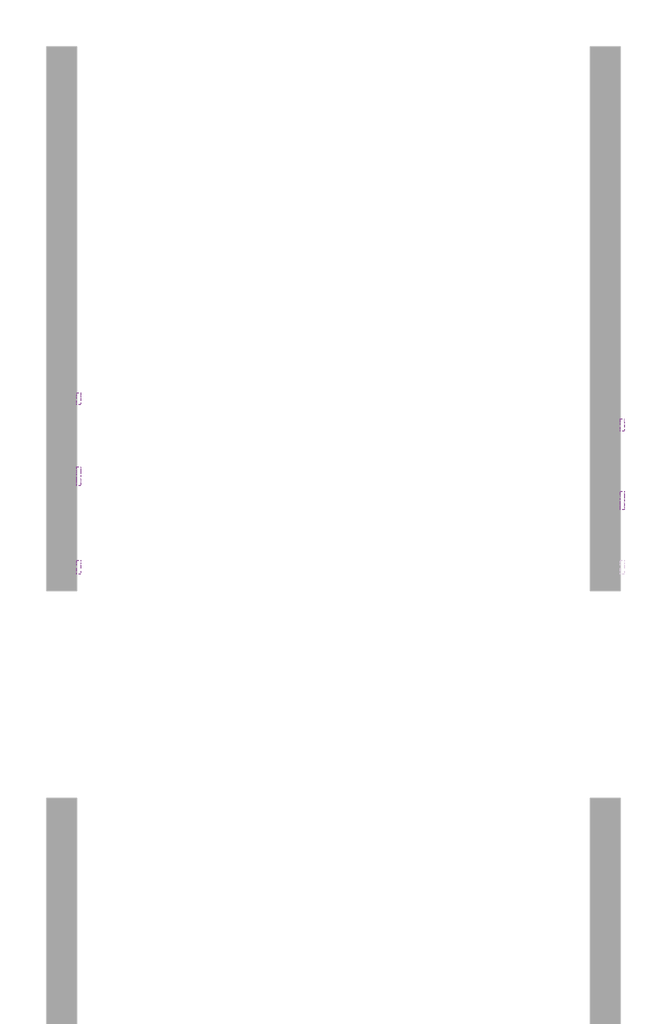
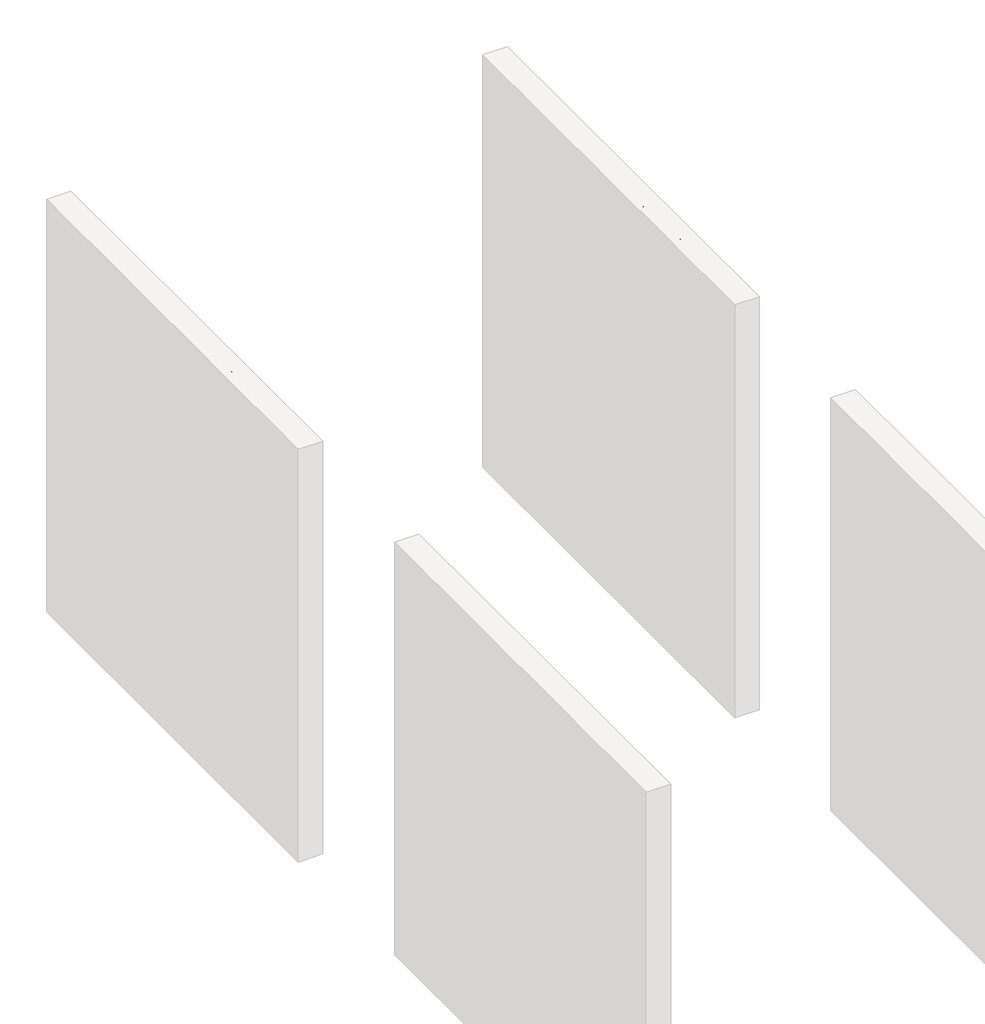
# One storey, part 8 of 17: 5 proxies.
"""IFC4 building model written with IfcOpenShell, lengths in millimetres."""

from ifc_helpers import new_model, si_unit, frame, origin, place, context, project, spatial, polyline, outline, extrude, element, save

model = new_model("IFC4")

# Units and contexts
model_context = context("Model", 3, world=origin())
ifc_project = project(units=[si_unit("LENGTHUNIT", "METRE", prefix="MILLI")], contexts=[model_context])

# Site, building, storey
site = spatial("IfcSite", under=ifc_project)
building = spatial("IfcBuilding", under=site)
storey = spatial("IfcBuildingStorey", under=building, Name="PORTOBELLO - SHOWROOM", Elevation=0.0)

# Proxies
placement = place(None, origin())
element("IfcBuildingElementProxy", 1, Name="10mm Arial", ObjectType="10mm Arial", at=placement, inside=storey, context=model_context, shape_type="SweptSolid", body=[
    extrude(outline(polyline([(-114.2937244, 2554.1836467), (-101.7366857, 2550.9462851), (-107.5308271, 2536.3137787), (-116.6236437, 2525.6237411), (-128.5675459, 2519.0846386), (-142.9149437, 2516.9049378), (-157.480005, 2518.5542754), (-169.0468281, 2523.5022883), (-177.9127841, 2531.5772981), (-184.3752445, 2542.6076265), (-189.6359571, 2569.4630122), (-188.1491007, 2584.110847), (-183.6885315, 2596.7598562), (-176.4872414, 2607.0084355), (-166.7782224, 2614.4549802), (-155.263516, 2618.9891258), (-142.6451635, 2620.5005077), (-128.8771799, 2618.5446017), (-117.4942978, 2612.6768839), (-108.8521366, 2603.2591048), (-103.3063155, 2590.6530151), (-115.8633543, 2587.6609082), (-126.1640502, 2603.0996893), (-143.1356729, 2607.9434689), (-162.7805714, 2602.5723918), (-173.8783449, 2588.1514175), (-177.0789183, 2569.4875377), (-173.2897337, 2547.8560763), (-161.4929844, 2534.0359761), (-144.1657425, 2529.4619766), (-133.6841713, 2531.0193437), (-124.9500396, 2535.691445), (-118.3557548, 2543.4292297), (-114.2937244, 2554.1836467)])), frame((-10322.2794626, 0.0, 0.0), z_axis=(1.0, 0.0, 0.0), x_axis=(0.0, 1.0, 0.0)), (0.0, 0.0, 1.0), 20.0),
    extrude(outline(polyline([(-10302.2794626, -73.4833484), (-10302.2794626, -86.0403872), (-10322.2794626, -86.0403872), (-10322.2794626, -73.4833484), (-10302.2794626, -73.4833484)])), frame((0.0, 0.0, 2518.4745677), z_axis=(0.0, 0.0, 1.0), x_axis=(1.0, 0.0, 0.0)), (0.0, 0.0, 1.0), 100.4563101),
    extrude(outline(polyline([(-7.5588949, 2527.8923467), (-19.7357889, 2519.3820099), (-33.1880072, 2516.9049378), (-43.6818412, 2518.3948599), (-51.4226915, 2522.8646261), (-56.1959604, 2529.6520489), (-57.78705, 2538.0949407), (-55.3835543, 2548.0277546), (-49.0682467, 2555.2382417), (-40.275867, 2559.3585201), (-29.4110854, 2561.246981), (-7.6324713, 2565.563463), (-7.5588949, 2568.3593662), (-11.0169857, 2577.6299925), (-24.8983996, 2581.2597615), (-37.6025912, 2578.8440031), (-43.6603814, 2570.2723526), (-56.2174201, 2571.8419824), (-50.7850293, 2584.1047156), (-39.8466714, 2591.2906772), (-23.2797188, 2593.8168003), (-8.061667, 2591.5849828), (0.534509, 2585.9809138), (4.3850072, 2577.4583142), (4.9981439, 2566.4709053), (4.9981439, 2550.8481832), (5.635806, 2529.0327809), (8.1374036, 2518.4745677), (-4.4196352, 2518.4745677), (-7.5588949, 2527.8923467)]), holes=[polyline([(-7.5588949, 2553.0064243), (-27.8169301, 2549.1559261), (-38.620398, 2547.1203124), (-43.5132286, 2543.8093744), (-45.2300112, 2538.9778575), (-41.4898776, 2532.1843033), (-30.5147314, 2529.4619766), (-17.8105398, 2532.4663462), (-9.6190341, 2539.738147), (-7.6324713, 2549.4502317), (-7.5588949, 2553.0064243)])]), frame((-10322.2794626, 0.0, 0.0), z_axis=(1.0, 0.0, 0.0), x_axis=(0.0, 1.0, 0.0)), (0.0, 0.0, 1.0), 20.0),
    extrude(outline(polyline([(22.2640722, 2490.2212304), (20.6944423, 2502.3122853), (27.0710636, 2501.2086394), (33.0307519, 2502.5943282), (36.6850464, 2506.4570892), (40.1186117, 2515.70319), (41.0996303, 2518.7443478), (14.4159229, 2592.2471704), (27.6351493, 2592.2471704), (41.8108688, 2551.2651162), (46.7404876, 2534.8821046), (51.6701063, 2549.3766553), (66.2137079, 2592.2471704), (79.3348324, 2592.2471704), (53.6566691, 2516.7087341), (46.9857422, 2500.3257226), (39.7016787, 2491.4720292), (29.9405431, 2488.6516006), (22.2640722, 2490.2212304)])), frame((-10322.2794626, 0.0, 0.0), z_axis=(1.0, 0.0, 0.0), x_axis=(0.0, 1.0, 0.0)), (0.0, 0.0, 1.0), 20.0),
    extrude(outline(polyline([(177.6574269, 2557.7153138), (177.6574269, 2570.2723526), (218.4678029, 2570.2723526), (218.4678029, 2532.7238636), (198.3201323, 2520.8780634), (177.0197648, 2516.9049378), (162.9329501, 2518.4837647), (150.2011674, 2523.2202454), (139.62456, 2530.948833), (132.0032713, 2541.5039806), (127.3955493, 2554.1652526), (125.859642, 2568.2122134), (127.389418, 2582.3603418), (131.9787459, 2595.5213202), (139.4375533, 2606.5608457), (149.575768, 2614.3446156), (161.9243403, 2618.9615346), (176.0142207, 2620.5005077), (195.6591192, 2616.9320523), (209.4301686, 2606.9992384), (217.0208004, 2590.383235), (205.4447803, 2587.121348), (199.7180839, 2598.7341563), (189.9324228, 2605.4296086), (175.818017, 2607.9434689), (159.7415738, 2605.2334049), (148.8032158, 2598.1210196), (142.3407554, 2588.4457231), (138.4166808, 2568.7272482), (143.137833, 2546.8382695), (156.8720942, 2533.7416705), (176.0142207, 2529.4619766), (193.1943099, 2532.6870754), (205.9107642, 2539.5664687), (205.9107642, 2557.7153138), (177.6574269, 2557.7153138)])), frame((-10322.2794626, 0.0, 0.0), z_axis=(1.0, 0.0, 0.0), x_axis=(0.0, 1.0, 0.0)), (0.0, 0.0, 1.0), 20.0),
    extrude(outline(polyline([(237.3033611, 2518.4745677), (237.3033611, 2592.2471704), (248.29077, 2592.2471704), (248.29077, 2581.3333379), (256.0898683, 2591.3887791), (263.9380175, 2593.8168003), (276.5441072, 2589.9417766), (272.3502525, 2578.6845875), (263.5210846, 2581.2597615), (256.4209621, 2578.7826894), (251.8960136, 2571.9155588), (249.8603999, 2557.24933), (249.8603999, 2518.4745677), (237.3033611, 2518.4745677)])), frame((-10322.2794626, 0.0, 0.0), z_axis=(1.0, 0.0, 0.0), x_axis=(0.0, 1.0, 0.0)), (0.0, 0.0, 1.0), 20.0),
    extrude(outline(polyline([(331.4811518, 2527.8923467), (319.3042578, 2519.3820099), (305.8520395, 2516.9049378), (295.3582056, 2518.3948599), (287.6173553, 2522.8646261), (282.8440864, 2529.6520489), (281.2529968, 2538.0949407), (283.6564925, 2548.0277546), (289.9718001, 2555.2382417), (298.7641797, 2559.3585201), (309.6289613, 2561.246981), (331.4075754, 2565.563463), (331.4811518, 2568.3593662), (328.0230611, 2577.6299925), (314.1416471, 2581.2597615), (301.4374556, 2578.8440031), (295.3796654, 2570.2723526), (282.8226266, 2571.8419824), (288.2550174, 2584.1047156), (299.1933754, 2591.2906772), (315.7603279, 2593.8168003), (330.9783798, 2591.5849828), (339.5745557, 2585.9809138), (343.425054, 2577.4583142), (344.0381906, 2566.4709053), (344.0381906, 2550.8481832), (344.6758527, 2529.0327809), (347.1774503, 2518.4745677), (334.6204115, 2518.4745677), (331.4811518, 2527.8923467)]), holes=[polyline([(331.4811518, 2553.0064243), (311.2231166, 2549.1559261), (300.4196487, 2547.1203124), (295.5268182, 2543.8093744), (293.8100355, 2538.9778575), (297.5501692, 2532.1843033), (308.5253153, 2529.4619766), (321.2295069, 2532.4663462), (329.4210127, 2539.738147), (331.4075754, 2549.4502317), (331.4811518, 2553.0064243)])]), frame((-10322.2794626, 0.0, 0.0), z_axis=(1.0, 0.0, 0.0), x_axis=(0.0, 1.0, 0.0)), (0.0, 0.0, 1.0), 20.0),
    extrude(outline(polyline([(364.4433786, 2518.4745677), (364.4433786, 2579.6901317), (353.4559697, 2579.6901317), (353.4559697, 2592.2471704), (364.4433786, 2592.2471704), (364.4433786, 2599.6783867), (365.7677538, 2610.1507609), (372.193426, 2617.6310281), (384.8485666, 2620.5005077), (396.3019594, 2619.1270815), (394.4625494, 2607.3548577), (387.2275368, 2607.9434689), (379.318074, 2605.8588043), (377.0004174, 2598.0842314), (377.0004174, 2592.2471704), (391.127086, 2592.2471704), (391.127086, 2579.6901317), (377.0004174, 2579.6901317), (377.0004174, 2518.4745677), (364.4433786, 2518.4745677)])), frame((-10322.2794626, 0.0, 0.0), z_axis=(1.0, 0.0, 0.0), x_axis=(0.0, 1.0, 0.0)), (0.0, 0.0, 1.0), 20.0),
    extrude(outline(polyline([(405.2537546, 2518.4745677), (405.2537546, 2579.6901317), (394.2663457, 2579.6901317), (394.2663457, 2592.2471704), (405.2537546, 2592.2471704), (405.2537546, 2599.6783867), (406.5781298, 2610.1507609), (413.003802, 2617.6310281), (425.6589426, 2620.5005077), (437.1123354, 2619.1270815), (435.2729254, 2607.3548577), (428.0379128, 2607.9434689), (420.12845, 2605.8588043), (417.8107934, 2598.0842314), (417.8107934, 2592.2471704), (431.937462, 2592.2471704), (431.937462, 2579.6901317), (417.8107934, 2579.6901317), (417.8107934, 2518.4745677), (405.2537546, 2518.4745677)])), frame((-10322.2794626, 0.0, 0.0), z_axis=(1.0, 0.0, 0.0), x_axis=(0.0, 1.0, 0.0)), (0.0, 0.0, 1.0), 20.0),
    extrude(outline(polyline([(-10302.2794626, 455.4819097), (-10302.2794626, 442.9248709), (-10322.2794626, 442.9248709), (-10322.2794626, 455.4819097), (-10302.2794626, 455.4819097)])), frame((0.0, 0.0, 2606.373839), z_axis=(0.0, 0.0, 1.0), x_axis=(1.0, 0.0, 0.0)), (0.0, 0.0, 1.0), 12.5570388),
    extrude(outline(polyline([(-10302.2794626, 455.4819097), (-10302.2794626, 442.9248709), (-10322.2794626, 442.9248709), (-10322.2794626, 455.4819097), (-10302.2794626, 455.4819097)])), frame((0.0, 0.0, 2518.4745677), z_axis=(0.0, 0.0, 1.0), x_axis=(1.0, 0.0, 0.0)), (0.0, 0.0, 1.0), 73.7726028),
])
element("IfcBuildingElementProxy", 2, Name="10mm Arial", ObjectType="10mm Arial", at=placement, inside=storey, context=model_context, shape_type="SweptSolid", body=[
    extrude(outline(polyline([(-159.81299, 2518.4745677), (-159.81299, 2606.373839), (-192.7752167, 2606.373839), (-192.7752167, 2618.9308778), (-114.2937244, 2618.9308778), (-114.2937244, 2606.373839), (-147.2559512, 2606.373839), (-147.2559512, 2518.4745677), (-159.81299, 2518.4745677)])), frame((-13022.2794626, 0.0, 0.0), z_axis=(1.0, 0.0, 0.0), x_axis=(0.0, 1.0, 0.0)), (0.0, 0.0, 1.0), 20.0),
    extrude(outline(polyline([(-104.8759454, 2555.360869), (-102.15975, 2573.1479635), (-94.0111638, 2585.64982), (-83.9434598, 2591.7750552), (-71.8891931, 2593.8168003), (-58.6975579, 2591.3305311), (-48.1608044, 2583.8717237), (-41.25382, 2572.0289891), (-38.9514918, 2556.3909386), (-43.0227192, 2534.0482388), (-54.8807822, 2521.4053609), (-71.8891931, 2516.9049378), (-85.2402439, 2519.3820099), (-95.7647346, 2526.8132262), (-102.5981427, 2538.9042811), (-104.8759454, 2555.360869)]), holes=[polyline([(-92.3189066, 2555.3853945), (-90.8657727, 2544.0209065), (-86.5063711, 2535.924437), (-79.9458088, 2531.0775917), (-71.8891931, 2529.4619766), (-63.8693656, 2531.0867887), (-57.3210661, 2535.9612252), (-52.9616645, 2544.1649937), (-51.5085306, 2555.777802), (-52.9708615, 2566.8111961), (-57.3578543, 2574.7973011), (-63.9153509, 2579.6441464), (-71.8891931, 2581.2597615), (-79.9458088, 2579.6502778), (-86.5063711, 2574.8218266), (-90.8657727, 2566.7437511), (-92.3189066, 2555.3853945)])]), frame((-13022.2794626, 0.0, 0.0), z_axis=(1.0, 0.0, 0.0), x_axis=(0.0, 1.0, 0.0)), (0.0, 0.0, 1.0), 20.0),
    extrude(outline(polyline([(-21.6855635, 2518.4745677), (-21.6855635, 2579.6901317), (-32.6729724, 2579.6901317), (-32.6729724, 2592.2471704), (-21.6855635, 2592.2471704), (-21.6855635, 2599.6783867), (-20.3611883, 2610.1507609), (-13.9355162, 2617.6310281), (-1.2803755, 2620.5005077), (10.1730173, 2619.1270815), (8.3336073, 2607.3548577), (1.0985947, 2607.9434689), (-6.8108682, 2605.8588043), (-9.1285248, 2598.0842314), (-9.1285248, 2592.2471704), (4.9981439, 2592.2471704), (4.9981439, 2579.6901317), (-9.1285248, 2579.6901317), (-9.1285248, 2518.4745677), (-21.6855635, 2518.4745677)])), frame((-13022.2794626, 0.0, 0.0), z_axis=(1.0, 0.0, 0.0), x_axis=(0.0, 1.0, 0.0)), (0.0, 0.0, 1.0), 20.0),
    extrude(outline(polyline([(19.1248125, 2518.4745677), (19.1248125, 2579.6901317), (8.1374036, 2579.6901317), (8.1374036, 2592.2471704), (19.1248125, 2592.2471704), (19.1248125, 2599.6783867), (20.4491877, 2610.1507609), (26.8748598, 2617.6310281), (39.5300005, 2620.5005077), (50.9833933, 2619.1270815), (49.1439833, 2607.3548577), (41.9089707, 2607.9434689), (33.9995078, 2605.8588043), (31.6818512, 2598.0842314), (31.6818512, 2592.2471704), (45.8085199, 2592.2471704), (45.8085199, 2579.6901317), (31.6818512, 2579.6901317), (31.6818512, 2518.4745677), (19.1248125, 2518.4745677)])), frame((-13022.2794626, 0.0, 0.0), z_axis=(1.0, 0.0, 0.0), x_axis=(0.0, 1.0, 0.0)), (0.0, 0.0, 1.0), 20.0),
    extrude(outline(polyline([(108.4465609, 2540.4493855), (120.758345, 2538.8797557), (116.3223013, 2529.602998), (109.2436386, 2522.6684224), (99.6817724, 2518.345809), (87.7961182, 2516.9049378), (73.0624443, 2519.391207), (61.7255475, 2526.8500144), (54.4966663, 2538.7969822), (52.0870392, 2554.7477324), (54.5211918, 2571.2349771), (61.8236494, 2583.5651553), (73.007262, 2591.253889), (87.0848797, 2593.8168003), (100.7241047, 2591.2600204), (111.6226088, 2583.5896808), (118.7687166, 2571.2840281), (121.1507525, 2554.8213088), (121.0771761, 2551.4367944), (64.644078, 2551.4367944), (66.8176475, 2542.0374095), (71.8668279, 2535.1273593), (79.153957, 2530.8783223), (88.0413729, 2529.4619766), (100.353157, 2532.0862015), (108.4465609, 2540.4493855)]), holes=[polyline([(64.644078, 2563.9938332), (108.5937137, 2563.9938332), (103.5659931, 2575.3736496), (96.2451414, 2579.7882335), (87.0358288, 2581.2597615), (71.5725223, 2576.5631347), (66.7072829, 2571.0724959), (64.644078, 2563.9938332)])]), frame((-13022.2794626, 0.0, 0.0), z_axis=(1.0, 0.0, 0.0), x_axis=(0.0, 1.0, 0.0)), (0.0, 0.0, 1.0), 20.0),
    extrude(outline(polyline([(185.3584234, 2540.4493855), (197.6702075, 2538.8797557), (193.2341637, 2529.602998), (186.155501, 2522.6684224), (176.5936348, 2518.345809), (164.7079807, 2516.9049378), (149.9743068, 2519.391207), (138.63741, 2526.8500144), (131.4085288, 2538.7969822), (128.9989017, 2554.7477324), (131.4330542, 2571.2349771), (138.7355118, 2583.5651553), (149.9191245, 2591.253889), (163.9967422, 2593.8168003), (177.6359671, 2591.2600204), (188.5344713, 2583.5896808), (195.680579, 2571.2840281), (198.0626149, 2554.8213088), (197.9890385, 2551.4367944), (141.5559405, 2551.4367944), (143.7295099, 2542.0374095), (148.7786903, 2535.1273593), (156.0658195, 2530.8783223), (164.9532354, 2529.4619766), (177.2650195, 2532.0862015), (185.3584234, 2540.4493855)]), holes=[polyline([(141.5559405, 2563.9938332), (185.5055762, 2563.9938332), (180.4778556, 2575.3736496), (173.1570039, 2579.7882335), (163.9476912, 2581.2597615), (148.4843847, 2576.5631347), (143.6191453, 2571.0724959), (141.5559405, 2563.9938332)])]), frame((-13022.2794626, 0.0, 0.0), z_axis=(1.0, 0.0, 0.0), x_axis=(0.0, 1.0, 0.0)), (0.0, 0.0, 1.0), 20.0),
    extrude(outline(polyline([(298.5189251, 2557.7153138), (298.5189251, 2570.2723526), (339.3293011, 2570.2723526), (339.3293011, 2532.7238636), (319.1816305, 2520.8780634), (297.881263, 2516.9049378), (283.7944482, 2518.4837647), (271.0626655, 2523.2202454), (260.4860581, 2530.948833), (252.8647695, 2541.5039806), (248.2570475, 2554.1652526), (246.7211402, 2568.2122134), (248.2509161, 2582.3603418), (252.840244, 2595.5213202), (260.2990515, 2606.5608457), (270.4372661, 2614.3446156), (282.7858384, 2618.9615346), (296.8757188, 2620.5005077), (316.5206174, 2616.9320523), (330.2916667, 2606.9992384), (337.8822986, 2590.383235), (326.3062784, 2587.121348), (320.5795821, 2598.7341563), (310.793921, 2605.4296086), (296.6795151, 2607.9434689), (280.6030719, 2605.2334049), (269.6647139, 2598.1210196), (263.2022535, 2588.4457231), (259.2781789, 2568.7272482), (263.9993312, 2546.8382695), (277.7335924, 2533.7416705), (296.8757188, 2529.4619766), (314.055808, 2532.6870754), (326.7722623, 2539.5664687), (326.7722623, 2557.7153138), (298.5189251, 2557.7153138)])), frame((-13022.2794626, 0.0, 0.0), z_axis=(1.0, 0.0, 0.0), x_axis=(0.0, 1.0, 0.0)), (0.0, 0.0, 1.0), 20.0),
    extrude(outline(polyline([(358.1648592, 2518.4745677), (358.1648592, 2592.2471704), (369.1522682, 2592.2471704), (369.1522682, 2581.3333379), (376.9513665, 2591.3887791), (384.7995157, 2593.8168003), (397.4056054, 2589.9417766), (393.2117506, 2578.6845875), (384.3825828, 2581.2597615), (377.2824602, 2578.7826894), (372.7575117, 2571.9155588), (370.721898, 2557.24933), (370.721898, 2518.4745677), (358.1648592, 2518.4745677)])), frame((-13022.2794626, 0.0, 0.0), z_axis=(1.0, 0.0, 0.0), x_axis=(0.0, 1.0, 0.0)), (0.0, 0.0, 1.0), 20.0),
    extrude(outline(polyline([(452.34265, 2527.8923467), (440.165756, 2519.3820099), (426.7135377, 2516.9049378), (416.2197038, 2518.3948599), (408.4788534, 2522.8646261), (403.7055845, 2529.6520489), (402.1144949, 2538.0949407), (404.5179906, 2548.0277546), (410.8332982, 2555.2382417), (419.6256779, 2559.3585201), (430.4904595, 2561.246981), (452.2690736, 2565.563463), (452.34265, 2568.3593662), (448.8845592, 2577.6299925), (435.0031453, 2581.2597615), (422.2989537, 2578.8440031), (416.2411635, 2570.2723526), (403.6841248, 2571.8419824), (409.1165156, 2584.1047156), (420.0548736, 2591.2906772), (436.6218261, 2593.8168003), (451.8398779, 2591.5849828), (460.4360539, 2585.9809138), (464.2865521, 2577.4583142), (464.8996888, 2566.4709053), (464.8996888, 2550.8481832), (465.5373509, 2529.0327809), (468.0389485, 2518.4745677), (455.4819097, 2518.4745677), (452.34265, 2527.8923467)]), holes=[polyline([(452.34265, 2553.0064243), (432.0846148, 2549.1559261), (421.2811469, 2547.1203124), (416.3883163, 2543.8093744), (414.6715337, 2538.9778575), (418.4116673, 2532.1843033), (429.3868135, 2529.4619766), (442.0910051, 2532.4663462), (450.2825108, 2539.738147), (452.2690736, 2549.4502317), (452.34265, 2553.0064243)])]), frame((-13022.2794626, 0.0, 0.0), z_axis=(1.0, 0.0, 0.0), x_axis=(0.0, 1.0, 0.0)), (0.0, 0.0, 1.0), 20.0),
    extrude(outline(polyline([(485.3048768, 2518.4745677), (485.3048768, 2579.6901317), (474.3174678, 2579.6901317), (474.3174678, 2592.2471704), (485.3048768, 2592.2471704), (485.3048768, 2599.6783867), (486.6292519, 2610.1507609), (493.0549241, 2617.6310281), (505.7100648, 2620.5005077), (517.1634575, 2619.1270815), (515.3240476, 2607.3548577), (508.089035, 2607.9434689), (500.1795721, 2605.8588043), (497.8619155, 2598.0842314), (497.8619155, 2592.2471704), (511.9885841, 2592.2471704), (511.9885841, 2579.6901317), (497.8619155, 2579.6901317), (497.8619155, 2518.4745677), (485.3048768, 2518.4745677)])), frame((-13022.2794626, 0.0, 0.0), z_axis=(1.0, 0.0, 0.0), x_axis=(0.0, 1.0, 0.0)), (0.0, 0.0, 1.0), 20.0),
    extrude(outline(polyline([(526.1152528, 2518.4745677), (526.1152528, 2579.6901317), (515.1278438, 2579.6901317), (515.1278438, 2592.2471704), (526.1152528, 2592.2471704), (526.1152528, 2599.6783867), (527.4396279, 2610.1507609), (533.8653001, 2617.6310281), (546.5204408, 2620.5005077), (557.9738335, 2619.1270815), (556.1344236, 2607.3548577), (548.899411, 2607.9434689), (540.9899481, 2605.8588043), (538.6722915, 2598.0842314), (538.6722915, 2592.2471704), (552.7989601, 2592.2471704), (552.7989601, 2579.6901317), (538.6722915, 2579.6901317), (538.6722915, 2518.4745677), (526.1152528, 2518.4745677)])), frame((-13022.2794626, 0.0, 0.0), z_axis=(1.0, 0.0, 0.0), x_axis=(0.0, 1.0, 0.0)), (0.0, 0.0, 1.0), 20.0),
    extrude(outline(polyline([(-13002.2794626, 576.3434078), (-13002.2794626, 563.7863691), (-13022.2794626, 563.7863691), (-13022.2794626, 576.3434078), (-13002.2794626, 576.3434078)])), frame((0.0, 0.0, 2606.373839), z_axis=(0.0, 0.0, 1.0), x_axis=(1.0, 0.0, 0.0)), (0.0, 0.0, 1.0), 12.5570388),
    extrude(outline(polyline([(-13002.2794626, 576.3434078), (-13002.2794626, 563.7863691), (-13022.2794626, 563.7863691), (-13022.2794626, 576.3434078), (-13002.2794626, 576.3434078)])), frame((0.0, 0.0, 2518.4745677), z_axis=(0.0, 0.0, 1.0), x_axis=(1.0, 0.0, 0.0)), (0.0, 0.0, 1.0), 73.7726028),
])
element("IfcBuildingElementProxy", 3, Name="10mm Arial", ObjectType="10mm Arial", at=placement, inside=storey, context=model_context, shape_type="SweptSolid", body=[
    extrude(outline(polyline([(-148.8255811, 2393.4745677), (-148.8255811, 2417.0190154), (-194.3448466, 2417.0190154), (-194.3448466, 2429.5760541), (-145.6863214, 2492.361248), (-136.2685423, 2492.361248), (-136.2685423, 2429.5760541), (-123.7115035, 2429.5760541), (-123.7115035, 2417.0190154), (-136.2685423, 2417.0190154), (-136.2685423, 2393.4745677), (-148.8255811, 2393.4745677)]), holes=[polyline([(-148.8255811, 2429.5760541), (-148.8255811, 2468.3753419), (-178.8938028, 2429.5760541), (-148.8255811, 2429.5760541)])]), frame((-13022.2794626, 0.0, 0.0), z_axis=(1.0, 0.0, 0.0), x_axis=(0.0, 1.0, 0.0)), (0.0, 0.0, 1.0), 20.0),
    extrude(outline(polyline([(-112.7240946, 2420.158275), (-100.1670558, 2421.7279049), (-93.8394855, 2408.7907214), (-80.718361, 2404.4619766), (-71.7175149, 2405.9672271), (-64.9730116, 2410.4829786), (-60.7607628, 2417.4880649), (-59.3566798, 2426.4613199), (-64.6173924, 2441.3728034), (-71.2239399, 2445.4746877), (-80.5221573, 2446.8419824), (-91.5463544, 2444.6592159), (-98.597426, 2438.9938332), (-111.1544648, 2440.563463), (-100.1670558, 2492.361248), (-51.5085306, 2492.361248), (-51.5085306, 2479.8042092), (-90.0135128, 2479.8042092), (-95.4091154, 2452.1394832), (-86.438926, 2457.5841367), (-77.0395411, 2459.3990212), (-65.3041054, 2457.1488097), (-55.5552325, 2450.3981751), (-48.9885389, 2440.1097419), (-46.7996411, 2427.2461348), (-48.7678097, 2414.6890961), (-54.6723158, 2403.9469418), (-65.9785557, 2394.9154388), (-80.7674119, 2391.9049378), (-93.1006558, 2393.839384), (-102.9261708, 2399.6427224), (-109.661477, 2408.6405029), (-112.7240946, 2420.158275)])), frame((-13022.2794626, 0.0, 0.0), z_axis=(1.0, 0.0, 0.0), x_axis=(0.0, 1.0, 0.0)), (0.0, 0.0, 1.0), 20.0),
    extrude(outline(polyline([(-40.5211217, 2393.4745677), (-13.6902615, 2430.5815982), (-38.9514918, 2467.2471704), (-23.8928555, 2467.2471704), (-11.7036987, 2449.5643092), (-5.9892651, 2441.2501761), (-1.0351209, 2448.0682557), (12.8462931, 2467.2471704), (27.9539804, 2467.2471704), (1.4174258, 2430.5570728), (26.9729617, 2393.4745677), (11.8897999, 2393.4745677), (-3.512193, 2415.792742), (-6.3080961, 2419.8884949), (-25.4134344, 2393.4745677), (-40.5211217, 2393.4745677)])), frame((-13022.2794626, 0.0, 0.0), z_axis=(1.0, 0.0, 0.0), x_axis=(0.0, 1.0, 0.0)), (0.0, 0.0, 1.0), 20.0),
    extrude(outline(polyline([(81.9100063, 2393.4745677), (69.3529675, 2393.4745677), (69.3529675, 2471.7598562), (57.4581164, 2463.2863076), (44.23889, 2456.9464746), (44.23889, 2468.8168003), (62.6452525, 2480.5644987), (73.8166024, 2493.9308778), (81.9100063, 2493.9308778), (81.9100063, 2393.4745677)])), frame((-13022.2794626, 0.0, 0.0), z_axis=(1.0, 0.0, 0.0), x_axis=(0.0, 1.0, 0.0)), (0.0, 0.0, 1.0), 20.0),
    extrude(outline(polyline([(176.0877971, 2406.0316064), (176.0877971, 2393.4745677), (110.1633435, 2393.4745677), (111.5122442, 2402.1320573), (119.151927, 2415.4616482), (134.8850136, 2430.0175125), (156.5532631, 2450.9377353), (161.9611285, 2465.1625058), (156.8475687, 2476.6772122), (143.4934523, 2481.373839), (129.5752502, 2476.7875768), (124.2900122, 2464.1079107), (111.7329734, 2465.6775406), (114.7771969, 2477.8237778), (121.3592189, 2486.6958652), (131.135683, 2492.1221247), (143.7632324, 2493.9308778), (156.4827524, 2491.9197896), (166.2408223, 2485.8865249), (172.448831, 2476.873416), (174.5181672, 2465.9227952), (172.2863498, 2454.0156813), (164.8673962, 2441.7038972), (146.8779667, 2424.4992826), (132.432467, 2412.4204904), (126.7670843, 2406.0316064), (176.0877971, 2406.0316064)])), frame((-13022.2794626, 0.0, 0.0), z_axis=(1.0, 0.0, 0.0), x_axis=(0.0, 1.0, 0.0)), (0.0, 0.0, 1.0), 20.0),
    extrude(outline(polyline([(188.6448359, 2442.8933823), (192.3359185, 2471.7966444), (203.298802, 2488.4616988), (221.6070626, 2493.9308778), (236.2732915, 2490.6935163), (246.4023091, 2481.3615763), (252.288421, 2466.4991437), (254.5692894, 2442.8933823), (250.9149949, 2414.1127476), (239.9888996, 2397.410905), (231.75754, 2393.2814296), (221.6070626, 2391.9049378), (208.5595145, 2394.2961708), (198.6512261, 2401.4698697), (191.1464334, 2418.4598865), (188.6448359, 2442.8933823)]), holes=[polyline([(201.2018746, 2442.9179078), (202.6734026, 2423.1657104), (207.0879865, 2411.7337774), (213.6608115, 2406.2799268), (221.6070626, 2404.4619766), (229.5533137, 2406.2860581), (236.1261387, 2411.7583028), (240.5407226, 2423.1963672), (242.0122506, 2442.9179078), (240.5897736, 2462.2255812), (236.3223424, 2473.746419), (229.7617802, 2479.466984), (221.4599098, 2481.373839), (213.5994979, 2479.6938446), (207.2841903, 2474.6538613), (202.7224535, 2462.4156536), (201.2018746, 2442.9179078)])]), frame((-13022.2794626, 0.0, 0.0), z_axis=(1.0, 0.0, 0.0), x_axis=(0.0, 1.0, 0.0)), (0.0, 0.0, 1.0), 20.0),
])
element("IfcBuildingElementProxy", 4, Name="10mm Arial Narrow", ObjectType="10mm Arial Narrow", at=placement, inside=storey, context=model_context, shape_type="SweptSolid", body=[
    extrude(outline(polyline([(516.9785273, 2518.4745677), (516.9785273, 2615.7916181), (547.2184273, 2615.7916181), (562.9637767, 2613.9767336), (574.0492875, 2604.8164719), (578.1940913, 2588.3721467), (576.4681116, 2576.7041561), (571.2901726, 2567.402873), (561.8754592, 2561.314426), (547.4391565, 2559.2849437), (526.3963064, 2559.2849437), (526.3963064, 2518.4745677), (516.9785273, 2518.4745677)]), holes=[polyline([(526.3963064, 2570.2723526), (548.5918535, 2570.2723526), (563.9202699, 2574.6501483), (568.7763123, 2587.857112), (566.3850793, 2597.6795612), (560.609332, 2603.2836303), (548.3711243, 2604.8042092), (526.3963064, 2604.8042092), (526.3963064, 2570.2723526)])]), frame((-10322.2794626, 0.0, 0.0), z_axis=(1.0, 0.0, 0.0), x_axis=(0.0, 1.0, 0.0)), (0.0, 0.0, 1.0), 20.0),
    extrude(outline(polyline([(586.0422406, 2553.7912392), (587.9307015, 2569.8216971), (593.5960842, 2581.3701261), (602.155472, 2588.350687), (612.7259479, 2590.6775406), (623.1737966, 2588.350687), (631.7577098, 2581.3701261), (637.496669, 2570.0056381), (639.4096553, 2554.5270032), (637.5303915, 2537.9447223), (631.8925999, 2526.2123523), (623.3424092, 2519.2317914), (612.7259479, 2516.9049378), (602.232114, 2519.2379228), (593.6573979, 2526.2368778), (587.9460299, 2537.7914381), (586.0422406, 2553.7912392)]), holes=[polyline([(595.4600196, 2553.8157647), (596.7200155, 2541.6879216), (600.500003, 2533.1162711), (606.1439259, 2528.0211054), (612.9957281, 2526.3227169), (619.4888453, 2528.0364339), (624.9886811, 2533.1775847), (628.7410775, 2541.7645636), (629.9918763, 2553.8157647), (628.7318804, 2565.9068196), (624.9518929, 2574.4662073), (619.30797, 2579.561373), (612.4561678, 2581.2597615), (605.9170654, 2579.5521759), (600.4264266, 2574.4294191), (596.7016214, 2565.8608343), (595.4600196, 2553.8157647)])]), frame((-10322.2794626, 0.0, 0.0), z_axis=(1.0, 0.0, 0.0), x_axis=(0.0, 1.0, 0.0)), (0.0, 0.0, 1.0), 20.0),
    extrude(outline(polyline([(708.4733686, 2526.3227169), (710.0429984, 2516.9049378), (702.9306132, 2516.9049378), (694.9353111, 2518.9528143), (690.7659819, 2524.5568833), (689.6378104, 2538.7080774), (689.6378104, 2579.6901317), (681.7896612, 2579.6901317), (681.7896612, 2582.8293914), (680.2200313, 2578.1205018), (672.9114424, 2579.6901317), (667.0375932, 2577.4460515), (663.2974596, 2571.1797948), (661.3844732, 2556.2928368), (661.3844732, 2518.4745677), (651.9666941, 2518.4745677), (651.9666941, 2589.1079107), (661.3844732, 2589.1079107), (661.3844732, 2579.7391826), (667.4177379, 2588.5192995), (673.5981554, 2590.6775406), (681.7896612, 2589.1079107), (689.6378104, 2589.1079107), (689.6378104, 2604.8042092), (699.0555895, 2612.6523584), (699.0555895, 2589.1079107), (708.4733686, 2589.1079107), (708.4733686, 2579.6901317), (699.0555895, 2579.6901317), (699.0555895, 2536.5498364), (699.8894553, 2528.8243145), (704.3530902, 2526.3227169), (708.4733686, 2526.3227169)])), frame((-10322.2794626, 0.0, 0.0), z_axis=(1.0, 0.0, 0.0), x_axis=(0.0, 1.0, 0.0)), (0.0, 0.0, 1.0), 20.0),
    extrude(outline(polyline([(714.7518879, 2553.7912392), (716.6403489, 2569.8216971), (722.3057316, 2581.3701261), (730.8651193, 2588.350687), (741.4355953, 2590.6775406), (751.883444, 2588.350687), (760.4673572, 2581.3701261), (766.2063163, 2570.0056381), (768.1193027, 2554.5270032), (766.2400389, 2537.9447223), (760.6022473, 2526.2123523), (752.0520566, 2519.2317914), (741.4355953, 2516.9049378), (730.9417614, 2519.2379228), (722.3670452, 2526.2368778), (716.6556773, 2537.7914381), (714.7518879, 2553.7912392)]), holes=[polyline([(724.169667, 2553.8157647), (725.4296629, 2541.6879216), (729.2096504, 2533.1162711), (734.8535733, 2528.0211054), (741.7053755, 2526.3227169), (748.1984927, 2528.0364339), (753.6983285, 2533.1775847), (757.4507249, 2541.7645636), (758.7015236, 2553.8157647), (757.4415278, 2565.9068196), (753.6615403, 2574.4662073), (748.0176174, 2579.561373), (741.1658152, 2581.2597615), (734.6267127, 2579.5521759), (729.136074, 2574.4294191), (725.4112688, 2565.8608343), (724.169667, 2553.8157647)])]), frame((-10322.2794626, 0.0, 0.0), z_axis=(1.0, 0.0, 0.0), x_axis=(0.0, 1.0, 0.0)), (0.0, 0.0, 1.0), 20.0),
    extrude(outline(polyline([(790.0941206, 2518.4745677), (780.6763415, 2518.4745677), (780.6763415, 2615.7916181), (790.0941206, 2615.7916181), (790.0941206, 2581.5785926), (797.243294, 2588.4211977), (806.1337755, 2590.6775406), (818.5804497, 2586.6185759), (827.5445077, 2574.3190545), (830.9044966, 2554.3307995), (829.0374954, 2538.4321659), (823.4364921, 2526.641548), (815.3461538, 2519.3390904), (806.0111482, 2516.9049378), (796.9857766, 2519.4310609), (790.0941206, 2526.9358536), (790.0941206, 2518.4745677)]), holes=[polyline([(790.0941206, 2554.3307995), (792.1052088, 2537.6657451), (797.795117, 2529.2289847), (805.9620973, 2526.3227169), (811.7041221, 2528.0517623), (816.7655652, 2533.2388984), (821.4867175, 2553.938392), (816.9372435, 2574.6501483), (811.869669, 2579.6073582), (805.7658936, 2581.2597615), (799.9901462, 2579.5307161), (794.8765865, 2574.34358), (790.0941206, 2554.3307995)])]), frame((-10322.2794626, 0.0, 0.0), z_axis=(1.0, 0.0, 0.0), x_axis=(0.0, 1.0, 0.0)), (0.0, 0.0, 1.0), 20.0),
    extrude(outline(polyline([(881.1326516, 2540.4493855), (890.5504307, 2538.8797557), (881.3533808, 2522.4476932), (864.8722674, 2516.9049378), (853.6702607, 2519.2379228), (844.8349614, 2526.2368778), (839.0960023, 2537.6442853), (837.1830159, 2553.202628), (839.1051994, 2569.3066623), (844.8717496, 2581.0758205), (853.5813559, 2588.2771106), (864.3327072, 2590.6775406), (874.6548628, 2588.359884), (883.1069517, 2581.4069143), (888.7447432, 2570.0638861), (890.6240071, 2554.5760541), (890.5504307, 2551.4367944), (846.600795, 2551.4367944), (852.4010678, 2532.6502872), (858.1308299, 2527.9046095), (864.9948948, 2526.3227169), (874.8296068, 2529.854384), (881.1326516, 2540.4493855)]), holes=[polyline([(847.2384571, 2560.8545735), (881.1326516, 2560.8545735), (877.0123733, 2574.6378856), (871.3837788, 2579.6042925), (864.4062836, 2581.2597615), (852.6095343, 2575.7415316), (847.2384571, 2560.8545735)])]), frame((-10322.2794626, 0.0, 0.0), z_axis=(1.0, 0.0, 0.0), x_axis=(0.0, 1.0, 0.0)), (0.0, 0.0, 1.0), 20.0),
    extrude(outline(polyline([(-10302.2794626, 912.5252486), (-10302.2794626, 903.1074695), (-10322.2794626, 903.1074695), (-10322.2794626, 912.5252486), (-10302.2794626, 912.5252486)])), frame((0.0, 0.0, 2518.4745677), z_axis=(0.0, 0.0, 1.0), x_axis=(1.0, 0.0, 0.0)), (0.0, 0.0, 1.0), 97.3170505),
    extrude(outline(polyline([(-10302.2794626, 937.6393261), (-10302.2794626, 928.221547), (-10322.2794626, 928.221547), (-10322.2794626, 937.6393261), (-10302.2794626, 937.6393261)])), frame((0.0, 0.0, 2518.4745677), z_axis=(0.0, 0.0, 1.0), x_axis=(1.0, 0.0, 0.0)), (0.0, 0.0, 1.0), 97.3170505),
    extrude(outline(polyline([(948.626735, 2553.7912392), (950.5151959, 2569.8216971), (956.1805786, 2581.3701261), (964.7399664, 2588.350687), (975.3104424, 2590.6775406), (985.7582911, 2588.350687), (994.3422043, 2581.3701261), (1000.0811634, 2570.0056381), (1001.9941498, 2554.5270032), (1000.1148859, 2537.9447223), (994.4770943, 2526.2123523), (985.9269036, 2519.2317914), (975.3104424, 2516.9049378), (964.8166085, 2519.2379228), (956.2418923, 2526.2368778), (950.5305243, 2537.7914381), (948.626735, 2553.7912392)]), holes=[polyline([(958.0445141, 2553.8157647), (959.3045099, 2541.6879216), (963.0844974, 2533.1162711), (968.7284204, 2528.0211054), (975.5802225, 2526.3227169), (982.0733397, 2528.0364339), (987.5731756, 2533.1775847), (991.3255719, 2541.7645636), (992.5763707, 2553.8157647), (991.3163749, 2565.9068196), (987.5363874, 2574.4662073), (981.8924644, 2579.561373), (975.0406623, 2581.2597615), (968.5015598, 2579.5521759), (963.010921, 2574.4294191), (959.2861158, 2565.8608343), (958.0445141, 2553.8157647)])]), frame((-10322.2794626, 0.0, 0.0), z_axis=(1.0, 0.0, 0.0), x_axis=(0.0, 1.0, 0.0)), (0.0, 0.0, 1.0), 20.0),
])
element("IfcBuildingElementProxy", 5, Name="10mm Arial Narrow", ObjectType="10mm Arial Narrow", at=placement, inside=storey, context=model_context, shape_type="SweptSolid", body=[
    extrude(outline(polyline([(646.9785273, 2518.4745677), (646.9785273, 2615.7916181), (677.2184273, 2615.7916181), (692.9637767, 2613.9767336), (704.0492875, 2604.8164719), (708.1940913, 2588.3721467), (706.4681116, 2576.7041561), (701.2901726, 2567.402873), (691.8754592, 2561.314426), (677.4391565, 2559.2849437), (656.3963064, 2559.2849437), (656.3963064, 2518.4745677), (646.9785273, 2518.4745677)]), holes=[polyline([(656.3963064, 2570.2723526), (678.5918535, 2570.2723526), (693.9202699, 2574.6501483), (698.7763123, 2587.857112), (696.3850793, 2597.6795612), (690.609332, 2603.2836303), (678.3711243, 2604.8042092), (656.3963064, 2604.8042092), (656.3963064, 2570.2723526)])]), frame((-13022.2794626, 0.0, 0.0), z_axis=(1.0, 0.0, 0.0), x_axis=(0.0, 1.0, 0.0)), (0.0, 0.0, 1.0), 20.0),
    extrude(outline(polyline([(716.0422406, 2553.7912392), (717.9307015, 2569.8216971), (723.5960842, 2581.3701261), (732.155472, 2588.350687), (742.7259479, 2590.6775406), (753.1737966, 2588.350687), (761.7577098, 2581.3701261), (767.496669, 2570.0056381), (769.4096553, 2554.5270032), (767.5303915, 2537.9447223), (761.8925999, 2526.2123523), (753.3424092, 2519.2317914), (742.7259479, 2516.9049378), (732.232114, 2519.2379228), (723.6573979, 2526.2368778), (717.9460299, 2537.7914381), (716.0422406, 2553.7912392)]), holes=[polyline([(725.4600196, 2553.8157647), (726.7200155, 2541.6879216), (730.500003, 2533.1162711), (736.1439259, 2528.0211054), (742.9957281, 2526.3227169), (749.4888453, 2528.0364339), (754.9886811, 2533.1775847), (758.7410775, 2541.7645636), (759.9918763, 2553.8157647), (758.7318804, 2565.9068196), (754.9518929, 2574.4662073), (749.30797, 2579.561373), (742.4561678, 2581.2597615), (735.9170654, 2579.5521759), (730.4264266, 2574.4294191), (726.7016214, 2565.8608343), (725.4600196, 2553.8157647)])]), frame((-13022.2794626, 0.0, 0.0), z_axis=(1.0, 0.0, 0.0), x_axis=(0.0, 1.0, 0.0)), (0.0, 0.0, 1.0), 20.0),
    extrude(outline(polyline([(838.4733686, 2526.3227169), (840.0429984, 2516.9049378), (832.9306132, 2516.9049378), (824.9353111, 2518.9528143), (820.7659819, 2524.5568833), (819.6378104, 2538.7080774), (819.6378104, 2579.6901317), (811.7896612, 2579.6901317), (811.7896612, 2582.8293914), (810.2200313, 2578.1205018), (802.9114424, 2579.6901317), (797.0375932, 2577.4460515), (793.2974596, 2571.1797948), (791.3844732, 2556.2928368), (791.3844732, 2518.4745677), (781.9666941, 2518.4745677), (781.9666941, 2589.1079107), (791.3844732, 2589.1079107), (791.3844732, 2579.7391826), (797.4177379, 2588.5192995), (803.5981554, 2590.6775406), (811.7896612, 2589.1079107), (819.6378104, 2589.1079107), (819.6378104, 2604.8042092), (829.0555895, 2612.6523584), (829.0555895, 2589.1079107), (838.4733686, 2589.1079107), (838.4733686, 2579.6901317), (829.0555895, 2579.6901317), (829.0555895, 2536.5498364), (829.8894553, 2528.8243145), (834.3530902, 2526.3227169), (838.4733686, 2526.3227169)])), frame((-13022.2794626, 0.0, 0.0), z_axis=(1.0, 0.0, 0.0), x_axis=(0.0, 1.0, 0.0)), (0.0, 0.0, 1.0), 20.0),
    extrude(outline(polyline([(844.7518879, 2553.7912392), (846.6403489, 2569.8216971), (852.3057316, 2581.3701261), (860.8651193, 2588.350687), (871.4355953, 2590.6775406), (881.883444, 2588.350687), (890.4673572, 2581.3701261), (896.2063163, 2570.0056381), (898.1193027, 2554.5270032), (896.2400389, 2537.9447223), (890.6022473, 2526.2123523), (882.0520566, 2519.2317914), (871.4355953, 2516.9049378), (860.9417614, 2519.2379228), (852.3670452, 2526.2368778), (846.6556773, 2537.7914381), (844.7518879, 2553.7912392)]), holes=[polyline([(854.169667, 2553.8157647), (855.4296629, 2541.6879216), (859.2096504, 2533.1162711), (864.8535733, 2528.0211054), (871.7053755, 2526.3227169), (878.1984927, 2528.0364339), (883.6983285, 2533.1775847), (887.4507249, 2541.7645636), (888.7015236, 2553.8157647), (887.4415278, 2565.9068196), (883.6615403, 2574.4662073), (878.0176174, 2579.561373), (871.1658152, 2581.2597615), (864.6267127, 2579.5521759), (859.136074, 2574.4294191), (855.4112688, 2565.8608343), (854.169667, 2553.8157647)])]), frame((-13022.2794626, 0.0, 0.0), z_axis=(1.0, 0.0, 0.0), x_axis=(0.0, 1.0, 0.0)), (0.0, 0.0, 1.0), 20.0),
    extrude(outline(polyline([(920.0941206, 2518.4745677), (910.6763415, 2518.4745677), (910.6763415, 2615.7916181), (920.0941206, 2615.7916181), (920.0941206, 2581.5785926), (927.243294, 2588.4211977), (936.1337755, 2590.6775406), (948.5804497, 2586.6185759), (957.5445077, 2574.3190545), (960.9044966, 2554.3307995), (959.0374954, 2538.4321659), (953.4364921, 2526.641548), (945.3461538, 2519.3390904), (936.0111482, 2516.9049378), (926.9857766, 2519.4310609), (920.0941206, 2526.9358536), (920.0941206, 2518.4745677)]), holes=[polyline([(920.0941206, 2554.3307995), (922.1052088, 2537.6657451), (927.795117, 2529.2289847), (935.9620973, 2526.3227169), (941.7041221, 2528.0517623), (946.7655652, 2533.2388984), (951.4867175, 2553.938392), (946.9372435, 2574.6501483), (941.869669, 2579.6073582), (935.7658936, 2581.2597615), (929.9901462, 2579.5307161), (924.8765865, 2574.34358), (920.0941206, 2554.3307995)])]), frame((-13022.2794626, 0.0, 0.0), z_axis=(1.0, 0.0, 0.0), x_axis=(0.0, 1.0, 0.0)), (0.0, 0.0, 1.0), 20.0),
    extrude(outline(polyline([(1011.1326516, 2540.4493855), (1020.5504307, 2538.8797557), (1011.3533808, 2522.4476932), (994.8722674, 2516.9049378), (983.6702607, 2519.2379228), (974.8349614, 2526.2368778), (969.0960023, 2537.6442853), (967.1830159, 2553.202628), (969.1051994, 2569.3066623), (974.8717496, 2581.0758205), (983.5813559, 2588.2771106), (994.3327072, 2590.6775406), (1004.6548628, 2588.359884), (1013.1069517, 2581.4069143), (1018.7447432, 2570.0638861), (1020.6240071, 2554.5760541), (1020.5504307, 2551.4367944), (976.600795, 2551.4367944), (982.4010678, 2532.6502872), (988.1308299, 2527.9046095), (994.9948948, 2526.3227169), (1004.8296068, 2529.854384), (1011.1326516, 2540.4493855)]), holes=[polyline([(977.2384571, 2560.8545735), (1011.1326516, 2560.8545735), (1007.0123733, 2574.6378856), (1001.3837788, 2579.6042925), (994.4062836, 2581.2597615), (982.6095343, 2575.7415316), (977.2384571, 2560.8545735)])]), frame((-13022.2794626, 0.0, 0.0), z_axis=(1.0, 0.0, 0.0), x_axis=(0.0, 1.0, 0.0)), (0.0, 0.0, 1.0), 20.0),
    extrude(outline(polyline([(-13002.2794626, 1042.5252486), (-13002.2794626, 1033.1074695), (-13022.2794626, 1033.1074695), (-13022.2794626, 1042.5252486), (-13002.2794626, 1042.5252486)])), frame((0.0, 0.0, 2518.4745677), z_axis=(0.0, 0.0, 1.0), x_axis=(1.0, 0.0, 0.0)), (0.0, 0.0, 1.0), 97.3170505),
    extrude(outline(polyline([(-13002.2794626, 1067.6393261), (-13002.2794626, 1058.221547), (-13022.2794626, 1058.221547), (-13022.2794626, 1067.6393261), (-13002.2794626, 1067.6393261)])), frame((0.0, 0.0, 2518.4745677), z_axis=(0.0, 0.0, 1.0), x_axis=(1.0, 0.0, 0.0)), (0.0, 0.0, 1.0), 97.3170505),
    extrude(outline(polyline([(1078.626735, 2553.7912392), (1080.5151959, 2569.8216971), (1086.1805786, 2581.3701261), (1094.7399664, 2588.350687), (1105.3104424, 2590.6775406), (1115.7582911, 2588.350687), (1124.3422043, 2581.3701261), (1130.0811634, 2570.0056381), (1131.9941498, 2554.5270032), (1130.1148859, 2537.9447223), (1124.4770943, 2526.2123523), (1115.9269036, 2519.2317914), (1105.3104424, 2516.9049378), (1094.8166085, 2519.2379228), (1086.2418923, 2526.2368778), (1080.5305243, 2537.7914381), (1078.626735, 2553.7912392)]), holes=[polyline([(1088.0445141, 2553.8157647), (1089.3045099, 2541.6879216), (1093.0844974, 2533.1162711), (1098.7284204, 2528.0211054), (1105.5802225, 2526.3227169), (1112.0733397, 2528.0364339), (1117.5731756, 2533.1775847), (1121.3255719, 2541.7645636), (1122.5763707, 2553.8157647), (1121.3163749, 2565.9068196), (1117.5363874, 2574.4662073), (1111.8924644, 2579.561373), (1105.0406623, 2581.2597615), (1098.5015598, 2579.5521759), (1093.010921, 2574.4294191), (1089.2861158, 2565.8608343), (1088.0445141, 2553.8157647)])]), frame((-13022.2794626, 0.0, 0.0), z_axis=(1.0, 0.0, 0.0), x_axis=(0.0, 1.0, 0.0)), (0.0, 0.0, 1.0), 20.0),
])

save(model, "model.ifc")
